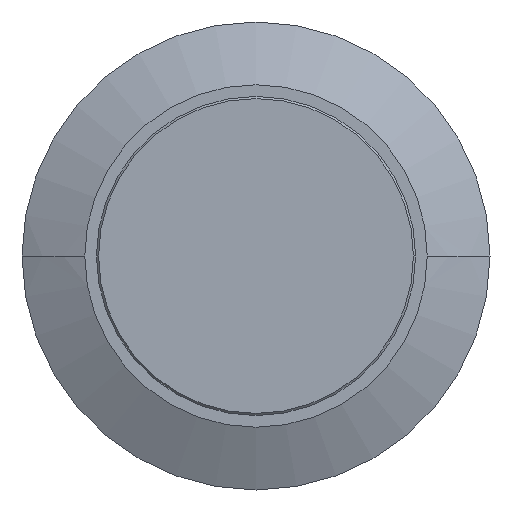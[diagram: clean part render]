
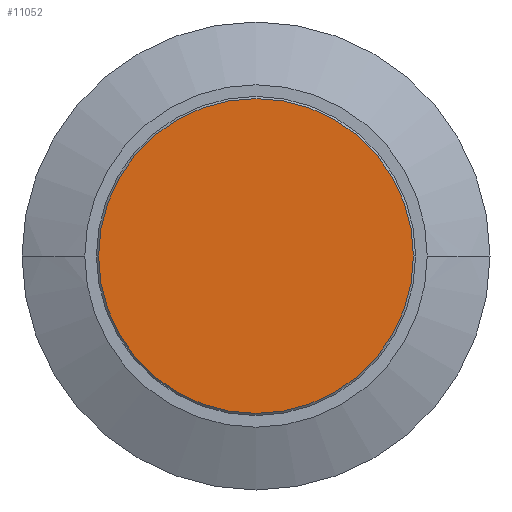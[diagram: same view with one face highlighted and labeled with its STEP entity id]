
A CAD part, left-side view. The second image highlights one B-rep face of the part: STEP entity #11052.
In plain terms, the highlighted planar face has unit normal (-1, 0, 0).
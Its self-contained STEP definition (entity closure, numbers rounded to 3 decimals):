
#11010=CARTESIAN_POINT('',(-17.66,0.,
0.));
#11011=DIRECTION('',(1.,0.,0.));
#11012=DIRECTION('',(0.,-1.,0.));
#11013=AXIS2_PLACEMENT_3D('',#11010,#11011,#11012);
#11024=CARTESIAN_POINT('',(-17.66,0.,
0.));
#11025=DIRECTION('',(1.,0.,0.));
#11026=DIRECTION('',(0.,1.,0.));
#11027=AXIS2_PLACEMENT_3D('',#11024,#11025,#11026);
#11037=CARTESIAN_POINT('',(-17.66,-7.4,0.));
#11038=CARTESIAN_POINT('',(-17.66,7.4,0.));
#11039=VERTEX_POINT('',#11037);
#11040=VERTEX_POINT('',#11038);
#11041=CARTESIAN_POINT('',(-17.66,0.,0.));
#11042=DIRECTION('',(1.,0.,0.));
#11043=DIRECTION('',(0.,-1.,0.));
#11044=AXIS2_PLACEMENT_3D('',#11041,#11042,#11043);
#11045=PLANE('',#11044);
#11047=ORIENTED_EDGE('',*,*,#11046,.T.);
#11049=ORIENTED_EDGE('',*,*,#11048,.T.);
#11050=EDGE_LOOP('',(#11047,#11049));
#11051=FACE_OUTER_BOUND('',#11050,.F.);
#11052=ADVANCED_FACE('',(#11051),#11045,.F.);
#11014=CIRCLE('',#11013,7.4);
#11028=CIRCLE('',#11027,7.4);
#11046=EDGE_CURVE('',#11039,#11040,#11014,.T.);
#11048=EDGE_CURVE('',#11040,#11039,#11028,.T.);
